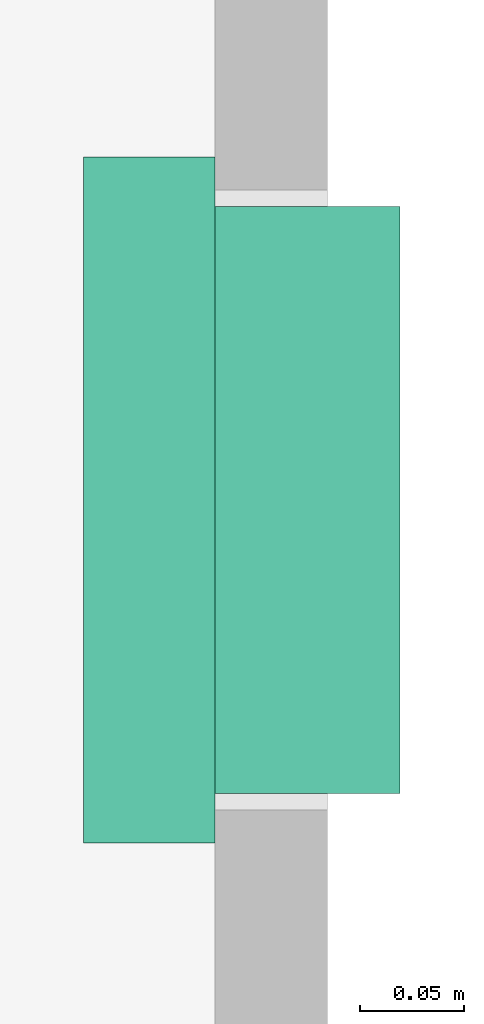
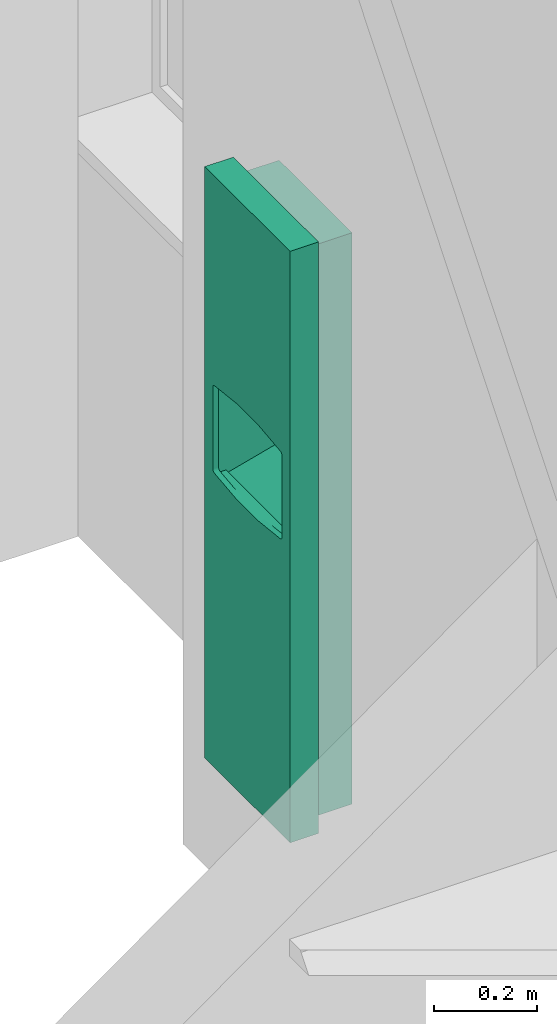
# One storey, part 63 of 87: 1 flow terminal.
"""IFC2X3 building model written with IfcOpenShell, lengths in metres."""

from ifc_helpers import new_model, entity, si_unit, converted_unit, frame, origin, place, context, project, spatial, face_set, surface_model, source, transform, mapped, type_object, type_shapes, element, save


model = new_model("IFC2X3")

# Units and contexts
model_context = context("Model", 3, precision=1e-09, world=origin())
plan_context = context("Plan", 3, precision=1e-09, world=origin())
ifc_project = project(units=[si_unit("LENGTHUNIT", "METRE"), si_unit("AREAUNIT", "SQUARE_METRE"), si_unit("VOLUMEUNIT", "CUBIC_METRE"), converted_unit("PLANEANGLEUNIT", "DEGREE", entity("IfcRatioMeasure", 0.01745329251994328), si_unit("PLANEANGLEUNIT", "RADIAN"), dimensions=[0, 0, 0, 0, 0, 0, 0]), si_unit("TIMEUNIT", "SECOND")], contexts=[model_context, plan_context])

# Site, building, storey, space
site_placement = place(None, origin())
site = spatial("IfcSite", under=ifc_project, at=site_placement, Name="Default", CompositionType="ELEMENT")
building_placement = place(site_placement, origin())
building = spatial("IfcBuilding", under=site, at=building_placement, CompositionType="ELEMENT")
storey_placement = place(building_placement, origin())
storey = spatial("IfcBuildingStorey", under=building, at=storey_placement, Name="First Floor", CompositionType="ELEMENT", Elevation=-3.531500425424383e-13)
space_placement = place(storey_placement, origin())
space = spatial("IfcSpace", under=storey, at=space_placement, Name="1B02", CompositionType="ELEMENT", InteriorOrExteriorSpace="INTERNAL")

# Flow terminal
sanitary_terminal_type = type_object("IfcSanitaryTerminalType", Name="Semi-Recessed", PredefinedType="NOTDEFINED")
shared_shape = source(origin(), model_context, "Body", "SurfaceModel", [
    surface_model("IfcFaceBasedSurfaceModel", [(0.3047999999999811, 1.371600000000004, 0.006350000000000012), (0.02539999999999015, 1.371600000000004, 0.006350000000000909), (0.02539999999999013, 0.02540000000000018, 0.006350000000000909), (0.3047999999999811, 0.02540000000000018, 0.006350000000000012), (0.3047999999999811, 1.371600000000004, 0.0), (0.02539999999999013, 1.371600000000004, 0.0), (0.02539999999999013, 0.02540000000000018, 0.0), (0.3047999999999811, 0.02540000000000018, 0.0), (0.3047999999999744, 0.8683625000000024, 0.0314087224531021), (0.304799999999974, 0.8683625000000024, 0.0), (0.304799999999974, 1.371600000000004, 0.0), (0.3047999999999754, 1.371600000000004, 0.1396999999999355), (0.3047999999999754, 0.9274310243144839, 0.139699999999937), (0.3047999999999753, 0.9028355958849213, 0.1191121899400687), (0.304799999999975, 0.8840898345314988, 0.09308548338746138), (0.3047999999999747, 0.8723562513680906, 0.06323391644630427), (0.02539999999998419, 0.8683625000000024, 0.03140872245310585), (0.02539999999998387, 0.8683625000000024, 0.0), (0.02539999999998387, 1.371600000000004, 0.0), (0.02539999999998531, 1.371600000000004, 0.1396999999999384), (0.02539999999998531, 0.9274310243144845, 0.1396999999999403), (0.02539999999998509, 0.9028355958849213, 0.1191121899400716), (0.02539999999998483, 0.8840898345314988, 0.09308548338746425), (0.02539999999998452, 0.8723562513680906, 0.06323391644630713), (0.1650999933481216, 0.8971245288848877, 0.1125374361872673), (0.244423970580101, 0.8850007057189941, 0.0947267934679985), (0.3048000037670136, 0.8934627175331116, 0.1060988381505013), (0.225727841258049, 0.8897196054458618, 0.1024402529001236), (0.1240624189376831, 0.8936511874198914, 0.1080563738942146), (0.1443802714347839, 0.89626145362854, 0.1114614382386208), (0.02539999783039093, 0.8934627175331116, 0.1060988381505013), (0.2975995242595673, 0.8728225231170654, 0.06500939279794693), (0.2961554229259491, 0.8724397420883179, 0.06352298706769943), (0.08576729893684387, 0.8849983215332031, 0.09472260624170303), (0.05923719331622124, 0.8781034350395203, 0.0805450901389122), (0.06810294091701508, 0.8800443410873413, 0.08500713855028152), (0.02539999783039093, 0.8811564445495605, 0.08562259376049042), (0.03954862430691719, 0.8766331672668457, 0.07681932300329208), (0.04958875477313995, 0.8769928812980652, 0.07776296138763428), (0.02539999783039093, 0.8782230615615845, 0.07815969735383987), (0.03264534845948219, 0.875198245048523, 0.07281118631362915), (0.02539999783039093, 0.8767563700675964, 0.0744282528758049), (0.02539999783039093, 0.87602299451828, 0.07256253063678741), (0.2946777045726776, 0.8762261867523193, 0.07572414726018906), (0.3048000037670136, 0.8767563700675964, 0.0744282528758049), (0.3048000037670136, 0.8774896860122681, 0.07629397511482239), (0.2906513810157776, 0.8717893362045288, 0.0609215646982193), (0.3048000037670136, 0.871357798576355, 0.05527761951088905), (0.3048000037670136, 0.8718570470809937, 0.05925576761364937), (0.02539999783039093, 0.874556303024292, 0.06883108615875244), (0.03170676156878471, 0.8735430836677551, 0.0675705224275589), (0.03171554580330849, 0.8739543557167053, 0.06892137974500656), (0.104461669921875, 0.889717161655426, 0.1024366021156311), (0.02539999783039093, 0.8752896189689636, 0.07069680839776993), (0.03172433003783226, 0.8743656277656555, 0.07027223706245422), (0.03218483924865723, 0.8747819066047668, 0.07154171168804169), (0.185808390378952, 0.8962624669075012, 0.1114626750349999), (0.3048000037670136, 0.8703593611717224, 0.04732131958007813), (0.2280749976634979, 0.8709259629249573, 0.05697767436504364), (0.2061262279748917, 0.8936530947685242, 0.1080589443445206), (0.3048000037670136, 0.8752896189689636, 0.07069680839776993), (0.297547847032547, 0.8752022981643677, 0.07282306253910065), (0.2980738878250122, 0.8745774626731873, 0.0708826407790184), (0.2985999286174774, 0.8739525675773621, 0.06894221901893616), (0.3048000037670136, 0.874556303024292, 0.06883108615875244), (0.2709419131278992, 0.8781068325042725, 0.08055329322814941), (0.3048000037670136, 0.8811564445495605, 0.08562259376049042), (0.2620970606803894, 0.8800443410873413, 0.08500713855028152), (0.2805894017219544, 0.8769944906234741, 0.07776710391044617), (0.3048000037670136, 0.8782230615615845, 0.07815969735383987), (0.03435983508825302, 0.8722586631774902, 0.06284872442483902), (0.02539999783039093, 0.872106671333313, 0.06124484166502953), (0.0367727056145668, 0.8719081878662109, 0.06142202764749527), (0.2906513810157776, 0.8766331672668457, 0.07681932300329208), (0.02539999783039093, 0.8718570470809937, 0.05925576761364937), (0.3048000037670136, 0.8738229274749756, 0.06696536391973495), (0.2980997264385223, 0.8733875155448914, 0.06697580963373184), (0.3048000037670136, 0.872106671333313, 0.06124484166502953), (0.2947112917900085, 0.8720570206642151, 0.06203658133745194), (0.02539999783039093, 0.8738229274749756, 0.06696536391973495), (0.3048000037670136, 0.873089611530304, 0.06509964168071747), (0.02539999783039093, 0.8774896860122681, 0.07629397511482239), (0.03438528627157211, 0.8759323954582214, 0.07491400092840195), (0.03677724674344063, 0.8764464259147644, 0.07632055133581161), (0.03261014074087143, 0.8728178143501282, 0.0649920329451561), (0.02539999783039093, 0.8703593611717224, 0.04732131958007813), (0.1650999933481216, 0.8683624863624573, 0.03140872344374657), (0.03954862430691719, 0.8717893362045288, 0.0609215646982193), (0.1021250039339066, 0.8709259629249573, 0.05697767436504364), (0.02539999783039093, 0.871357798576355, 0.05527761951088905), (0.02539999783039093, 0.873089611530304, 0.06509964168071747), (0.2961127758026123, 0.8757142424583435, 0.07427360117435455), (0.3048000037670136, 0.87602299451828, 0.07256253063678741), (0.1650999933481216, 0.8701865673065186, 0.05300865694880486), (0.03954862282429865, 0.9617593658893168, 0.06092156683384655), (0.1650999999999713, 0.9617593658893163, 0.05300865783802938), (0.2906513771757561, 0.9617593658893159, 0.06092156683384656), (0.2927086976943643, 0.9617593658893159, 0.06119241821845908), (0.2946258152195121, 0.9617593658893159, 0.06198651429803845), (0.2962720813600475, 0.9617593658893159, 0.06324973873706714), (0.2975353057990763, 0.9617593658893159, 0.06489600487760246), (0.2983294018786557, 0.9617593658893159, 0.06681312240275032), (0.2986002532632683, 0.9617593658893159, 0.06887044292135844), (0.2983294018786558, 0.9617593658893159, 0.07092776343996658), (0.2975353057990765, 0.9617593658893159, 0.0728448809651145), (0.2962720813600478, 0.9617593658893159, 0.07449114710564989), (0.2946258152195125, 0.9617593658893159, 0.07575437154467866), (0.2927086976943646, 0.9617593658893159, 0.07654846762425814), (0.2906513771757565, 0.9617593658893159, 0.07681931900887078), (0.2806776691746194, 0.9617593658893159, 0.07775040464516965), (0.2710486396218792, 0.9617593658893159, 0.0805114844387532), (0.2620970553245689, 0.9617593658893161, 0.0850071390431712), (0.2316919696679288, 0.9617593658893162, 0.1002429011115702), (0.1989754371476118, 0.9617593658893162, 0.1095287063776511), (0.1651000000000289, 0.9617593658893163, 0.1125374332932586), (0.1312245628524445, 0.9617593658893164, 0.109528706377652), (0.09850803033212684, 0.9617593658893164, 0.1002429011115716), (0.06810294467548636, 0.9617593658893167, 0.08500713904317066), (0.05915136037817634, 0.9617593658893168, 0.08051148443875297), (0.04952233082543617, 0.9617593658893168, 0.07775040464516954), (0.03954862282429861, 0.9617593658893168, 0.07681931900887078), (0.03749130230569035, 0.9617593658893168, 0.0765484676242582), (0.03557418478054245, 0.9617593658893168, 0.07575437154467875), (0.03392791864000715, 0.9617593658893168, 0.07449114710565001), (0.03266469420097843, 0.9617593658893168, 0.07284488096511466), (0.03187059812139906, 0.9617593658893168, 0.07092776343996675), (0.03159974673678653, 0.9617593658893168, 0.06887044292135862), (0.03187059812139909, 0.9617593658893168, 0.06681312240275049), (0.03266469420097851, 0.9617593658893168, 0.0648960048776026), (0.03392791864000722, 0.9617593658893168, 0.06324973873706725), (0.03557418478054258, 0.9617593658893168, 0.06198651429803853), (0.03749130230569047, 0.9617593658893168, 0.06119241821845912), (0.3302000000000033, 1.397000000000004, 0.1523999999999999), (0.0, 1.397000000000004, 0.152400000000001), (0.0, 0.0, 0.152400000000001), (0.3302000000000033, 0.0, 0.1523999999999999), (0.03175000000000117, 0.7016793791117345, 0.1524000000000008), (0.03175000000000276, 0.8960819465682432, 0.1524000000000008), (0.03192255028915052, 0.8975521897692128, 0.1524000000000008), (0.03243082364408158, 0.8989425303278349, 0.1524000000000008), (0.03324719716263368, 0.9001774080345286, 0.1524000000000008), (0.03432730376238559, 0.9011897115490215, 0.1524000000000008), (0.03561244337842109, 0.9019244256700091, 0.1524000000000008), (0.03703277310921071, 0.9023416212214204, 0.1524000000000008), (0.1222300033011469, 0.9119737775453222, 0.1524000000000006), (0.2079699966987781, 0.911973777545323, 0.1524000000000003), (0.2931672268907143, 0.902341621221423, 0.1524), (0.2945875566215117, 0.9019244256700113, 0.1524), (0.2958726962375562, 0.9011897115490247, 0.1524), (0.2969528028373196, 0.9001774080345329, 0.1524), (0.297769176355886, 0.8989425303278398, 0.1524), (0.2982774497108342, 0.8975521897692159, 0.1524), (0.2984500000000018, 0.8960819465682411, 0.1524), (0.2984500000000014, 0.7016793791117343, 0.1524), (0.2982774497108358, 0.7002091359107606, 0.1524), (0.2977691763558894, 0.6988187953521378, 0.1524), (0.2969528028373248, 0.697583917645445, 0.1524), (0.2958726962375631, 0.6965716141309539, 0.1524), (0.29458755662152, 0.6958369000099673, 0.1524), (0.2931672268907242, 0.6954197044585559, 0.1524), (0.2079699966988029, 0.6857875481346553, 0.1524000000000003), (0.1222300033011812, 0.6857875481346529, 0.1524000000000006), (0.03703277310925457, 0.6954197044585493, 0.1524000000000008), (0.03561244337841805, 0.6958369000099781, 0.1524000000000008), (0.0343273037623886, 0.6965716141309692, 0.1524000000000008), (0.03324719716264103, 0.6975839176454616, 0.1524000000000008), (0.03243082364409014, 0.698818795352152, 0.1524000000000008), (0.03192255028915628, 0.7002091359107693, 0.1524000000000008), (0.3063874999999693, 1.373187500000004, 0.0), (0.02381249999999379, 1.373187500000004, 0.0), (0.02381249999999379, 0.02381250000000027, 0.0), (0.3063874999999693, 0.02381250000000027, 0.0), (0.3047999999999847, 1.371600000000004, 0.0), (0.3047999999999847, 0.02540000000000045, 0.0), (0.02539999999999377, 0.02540000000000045, 0.0), (0.02539999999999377, 1.371600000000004, 0.0), (0.304799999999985, 1.371600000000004, 0.08889999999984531), (0.3047999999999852, 1.371600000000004, 0.1396999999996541), (0.3047999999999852, 0.02540000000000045, 0.1396999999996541), (0.304799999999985, 0.02540000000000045, 0.08889999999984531), (0.02539999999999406, 0.02540000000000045, 0.08889999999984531), (0.02539999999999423, 0.02540000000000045, 0.139699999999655), (0.02539999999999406, 1.371600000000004, 0.08889999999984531), (0.02539999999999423, 1.371600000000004, 0.139699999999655), (0.02381249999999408, 1.373187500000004, 0.08889999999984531), (0.3063874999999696, 1.373187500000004, 0.08889999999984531), (0.02381249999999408, 0.02381250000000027, 0.08889999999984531), (0.3063874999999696, 0.02381250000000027, 0.08889999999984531), (0.3302000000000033, 1.397000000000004, 0.08889999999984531), (0.0, 1.397000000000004, 0.08889999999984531), (0.0, 0.0, 0.08889999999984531), (0.3302000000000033, 0.0, 0.08889999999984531), (0.3302000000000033, 1.397000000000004, 0.1396999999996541), (0.0, 1.397000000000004, 0.1396999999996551), (0.0, 0.0, 0.1396999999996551), (0.3302000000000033, 0.0, 0.1396999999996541), (0.0317500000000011, 0.7016793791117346, 0.139699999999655), (0.03175000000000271, 0.8960819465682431, 0.139699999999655), (0.03192255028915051, 0.8975521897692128, 0.139699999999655), (0.03243082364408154, 0.8989425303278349, 0.139699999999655), (0.03324719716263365, 0.9001774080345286, 0.139699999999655), (0.03432730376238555, 0.9011897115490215, 0.139699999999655), (0.03561244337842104, 0.9019244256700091, 0.139699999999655), (0.03703277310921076, 0.9023416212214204, 0.139699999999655), (0.1222300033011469, 0.9119737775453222, 0.1396999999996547), (0.207969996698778, 0.911973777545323, 0.1396999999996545), (0.2931672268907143, 0.902341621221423, 0.1396999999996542), (0.2945875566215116, 0.9019244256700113, 0.1396999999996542), (0.2958726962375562, 0.9011897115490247, 0.1396999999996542), (0.2969528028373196, 0.9001774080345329, 0.1396999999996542), (0.2977691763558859, 0.8989425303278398, 0.1396999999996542), (0.2982774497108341, 0.8975521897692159, 0.1396999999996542), (0.2984500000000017, 0.8960819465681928, 0.1396999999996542), (0.2984500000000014, 0.7016793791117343, 0.1396999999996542), (0.2982774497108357, 0.7002091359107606, 0.1396999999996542), (0.2977691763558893, 0.6988187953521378, 0.1396999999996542), (0.2969528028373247, 0.697583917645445, 0.1396999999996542), (0.295872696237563, 0.6965716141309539, 0.1396999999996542), (0.29458755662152, 0.6958369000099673, 0.1396999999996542), (0.2931672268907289, 0.6954197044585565, 0.1396999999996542), (0.2079699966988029, 0.6857875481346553, 0.1396999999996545), (0.1222300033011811, 0.6857875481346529, 0.1396999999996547), (0.0370327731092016, 0.6954197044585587, 0.139699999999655), (0.03561244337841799, 0.6958369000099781, 0.139699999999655), (0.03432730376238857, 0.6965716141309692, 0.139699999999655), (0.03324719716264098, 0.6975839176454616, 0.139699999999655), (0.03243082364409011, 0.698818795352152, 0.139699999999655), (0.03192255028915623, 0.7002091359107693, 0.139699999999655), (0.02698749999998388, 0.6774923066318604, 0.1206361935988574), (0.02698749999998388, 0.6858000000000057, 0.1206361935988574), (0.02698749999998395, 0.6858000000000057, 0.1397000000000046), (0.02698749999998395, 0.0253999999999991, 0.1397000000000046), (0.02698749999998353, 0.0253999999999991, 0.007937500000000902), (0.02698749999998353, 0.7076898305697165, 0.007937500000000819), (0.3032124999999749, 0.6774923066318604, 0.1206361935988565), (0.3032124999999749, 0.6858000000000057, 0.1206361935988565), (0.3032124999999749, 0.6858000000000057, 0.1397000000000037), (0.3032124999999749, 0.0253999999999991, 0.1397000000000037), (0.3032124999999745, 0.0253999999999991, 0.007937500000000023), (0.3032124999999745, 0.7076898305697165, 0.007937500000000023)], [face_set([[[0, 1, 2, 3]], [[4, 5, 6, 7]], [[1, 0, 4, 5]], [[2, 6, 5, 1]], [[3, 7, 6, 2]], [[0, 3, 7, 4]]]), face_set([[[8, 9, 10, 11, 12, 13, 14, 15]], [[16, 17, 18, 19, 20, 21, 22, 23]], [[9, 8, 16, 17]], [[10, 18, 17, 9]], [[11, 19, 18, 10]], [[12, 11, 19, 20]], [[24, 20, 21]], [[25, 26, 27]], [[28, 29, 21]], [[28, 21, 30]], [[15, 31, 32]], [[22, 33, 30]], [[24, 21, 29]], [[34, 35, 36]], [[37, 38, 39]], [[40, 41, 42]], [[39, 38, 34]], [[22, 35, 33]], [[39, 34, 36]], [[43, 44, 45]], [[46, 47, 48]], [[49, 50, 51]], [[33, 52, 30]], [[53, 54, 55]], [[24, 56, 13]], [[57, 47, 58]], [[24, 13, 12]], [[13, 56, 59]], [[59, 27, 26]], [[60, 61, 62]], [[62, 63, 64]], [[24, 12, 20]], [[55, 42, 53]], [[65, 66, 67]], [[25, 67, 14]], [[25, 14, 26]], [[65, 68, 69]], [[66, 65, 69]], [[70, 71, 72]], [[69, 68, 73]], [[72, 71, 74]], [[26, 13, 59]], [[54, 53, 49]], [[64, 60, 62]], [[75, 63, 76]], [[46, 77, 78]], [[79, 50, 49]], [[80, 76, 31]], [[39, 81, 37]], [[41, 82, 81]], [[49, 51, 54]], [[81, 82, 83]], [[40, 82, 41]], [[70, 84, 23]], [[84, 50, 79]], [[85, 16, 86]], [[28, 30, 52]], [[70, 23, 71]], [[87, 72, 74]], [[85, 88, 89]], [[87, 89, 88]], [[74, 89, 87]], [[84, 90, 23]], [[58, 47, 46]], [[35, 22, 36]], [[63, 75, 64]], [[91, 61, 92]], [[45, 73, 43]], [[80, 75, 76]], [[61, 60, 92]], [[15, 32, 78]], [[45, 69, 73]], [[92, 44, 91]], [[66, 14, 67]], [[84, 79, 90]], [[85, 93, 88]], [[86, 57, 93]], [[31, 15, 80]], [[77, 15, 78]], [[42, 55, 40]], [[58, 93, 57]], [[77, 46, 48]], [[8, 57, 86]], [[37, 81, 83]], [[44, 43, 91]], [[85, 86, 93]], [[94, 95, 96, 97, 98, 99, 100, 101, 102, 103, 104, 105, 106, 107, 108, 109, 110, 111, 112, 113, 114, 115, 116, 117, 118, 119, 120, 121, 122, 123, 124, 125, 126, 127, 128, 129, 130, 131]], [[95, 94, 87, 88, 93]], [[96, 95, 93, 58, 46]], [[46, 96, 97]], [[78, 98, 99]], [[97, 98, 78]], [[99, 100, 31]], [[46, 97, 78]], [[63, 31, 101]], [[31, 78, 99]], [[63, 101, 102]], [[101, 31, 100]], [[61, 104, 105]], [[43, 106, 107]], [[105, 106, 43]], [[73, 107, 108]], [[63, 103, 61]], [[103, 63, 102]], [[61, 103, 104]], [[61, 105, 43]], [[107, 73, 43]], [[108, 68, 73]], [[68, 108, 109]], [[109, 65, 68]], [[110, 67, 65]], [[67, 110, 111]], [[109, 110, 65]], [[111, 112, 25]], [[25, 67, 111]], [[27, 25, 112]], [[112, 59, 27]], [[113, 114, 56]], [[56, 59, 113]], [[24, 56, 114]], [[113, 59, 112]], [[114, 115, 29]], [[29, 24, 114]], [[28, 29, 115]], [[115, 116, 28]], [[116, 117, 33]], [[33, 52, 116]], [[35, 33, 117]], [[116, 52, 28]], [[118, 34, 35]], [[35, 117, 118]], [[118, 119, 34]], [[120, 37, 38]], [[38, 119, 120]], [[34, 119, 38]], [[37, 120, 121]], [[82, 122, 123]], [[121, 122, 83]], [[123, 124, 40]], [[37, 121, 83]], [[83, 122, 82]], [[40, 125, 54]], [[40, 82, 123]], [[54, 125, 126]], [[40, 124, 125]], [[84, 127, 128]], [[129, 84, 128]], [[72, 130, 131]], [[129, 130, 70]], [[87, 131, 94]], [[127, 50, 126]], [[127, 84, 50]], [[126, 50, 54]], [[70, 84, 129]], [[130, 72, 70]], [[131, 87, 72]]]), face_set([[[132, 133, 134, 135], [136, 137, 138, 139, 140, 141, 142, 143, 144, 145, 146, 147, 148, 149, 150, 151, 152, 153, 154, 155, 156, 157, 158, 159, 160, 161, 162, 163, 164, 165, 166, 167]], [[168, 169, 170, 171], [172, 173, 174, 175]], [[172, 176, 177, 178, 179, 173]], [[173, 174, 180, 181, 178, 179]], [[174, 175, 182, 183, 181, 180]], [[175, 182, 183, 177, 176, 172]], [[168, 169, 184, 185]], [[169, 184, 186, 170]], [[170, 186, 187, 171]], [[171, 168, 185, 187]], [[188, 189, 190, 191], [185, 187, 186, 184]], [[133, 132, 192, 188, 189, 193]], [[134, 133, 193, 189, 190, 194]], [[135, 134, 194, 190, 191, 195]], [[132, 135, 195, 191, 188, 192]], [[177, 183, 181, 178], [196, 197, 198, 199, 200, 201, 202, 203, 204, 205, 206, 207, 208, 209, 210, 211, 212, 213, 214, 215, 216, 217, 218, 219, 220, 221, 222, 223, 224, 225, 226, 227]], [[137, 136, 196, 197]], [[198, 197, 137, 138]], [[199, 198, 138, 139]], [[139, 140, 200, 199]], [[202, 201, 141, 142]], [[203, 202, 142, 143]], [[140, 141, 201, 200]], [[203, 143, 144, 204]], [[145, 205, 204, 144]], [[205, 145, 146, 206]], [[207, 206, 146, 147]], [[208, 207, 147, 148]], [[148, 149, 209, 208]], [[212, 211, 151, 152]], [[211, 210, 150, 151]], [[149, 150, 210, 209]], [[153, 213, 212, 152]], [[214, 213, 153, 154]], [[215, 214, 154, 155]], [[155, 156, 216, 215]], [[218, 217, 157, 158]], [[219, 218, 158, 159]], [[156, 157, 217, 216]], [[219, 159, 160, 220]], [[161, 221, 220, 160]], [[221, 161, 162, 222]], [[223, 222, 162, 163]], [[224, 223, 163, 164]], [[164, 165, 225, 224]], [[227, 226, 166, 167]], [[196, 227, 167, 136]], [[165, 166, 226, 225]]]), face_set([[[228, 229, 230, 231, 232, 233]], [[234, 235, 236, 237, 238, 239]], [[233, 228, 234, 239]], [[232, 238, 239, 233]], [[231, 237, 238, 232]], [[230, 231, 237, 236]], [[229, 230, 236, 235]], [[228, 234, 235, 229]]])]),
])
type_shapes(sanitary_terminal_type, [shared_shape])
flow_terminal_placement = place(space_placement, frame((-0.1411000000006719, 26.5659999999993, 0.3428999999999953), z_axis=(-1.0, 0.0, 0.0), x_axis=(0.0, -1.0, 0.0)))
element("IfcFlowTerminal", 1, at=flow_terminal_placement, inside=space, type_object=sanitary_terminal_type, Name="M_Towel Dispensers - receptical:Semi-Recessed:Semi-Recessed", ObjectType="Semi-Recessed", context=model_context, shape_type="MappedRepresentation", body=[
    mapped(shared_shape, transform((0.0, 0.0, 0.0), scale=1.0)),
])

save(model, "model.ifc")
